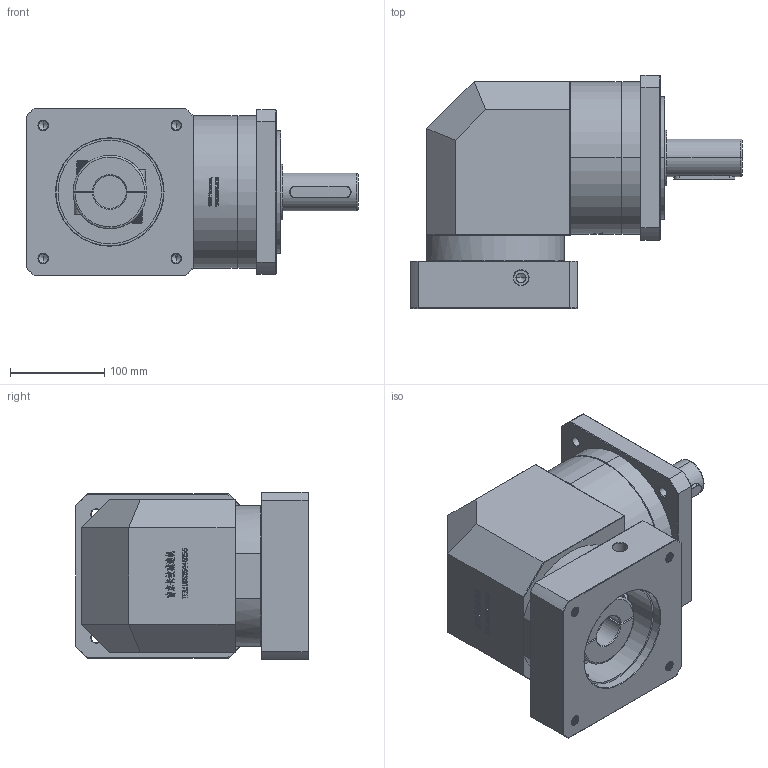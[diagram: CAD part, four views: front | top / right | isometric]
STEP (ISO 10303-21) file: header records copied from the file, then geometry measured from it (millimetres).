
FILE_DESCRIPTION (( 'STEP AP214' ), '1' );
FILE_NAME ('ZFR160A-D40-L1-35-114.3-200-M12.step', '2023-03-22T11:43:43', ( '' ), ( '' ), 'SwSTEP 2.0', 'SolidWorks 2016', '' );
FILE_SCHEMA (( 'AUTOMOTIVE_DESIGN' ));
Length unit declared in the file: millimetre
Products named in the file (1): ZFR160A-D40-L1-35-114.3-200-M12
Bounding box: 352.7 x 247.5 x 178 mm (x, y, z)
Volume: 7098359.4 mm3; surface area: 466941 mm2
Topology: 6 solids, 6 shells, 2503 faces, 6590 edges, 4241 vertices
Faces by surface type: plane 1273, bspline 497, cylinder 401, cone 310, torus 22
Entity records: 142020 total; most frequent: CARTESIAN_POINT 56972, ORIENTED_EDGE 13120, DIRECTION 9990, EDGE_CURVE 6560, VERTEX_POINT 4241, VECTOR 4146, LINE 4146, AXIS2_PLACEMENT_3D 2922
